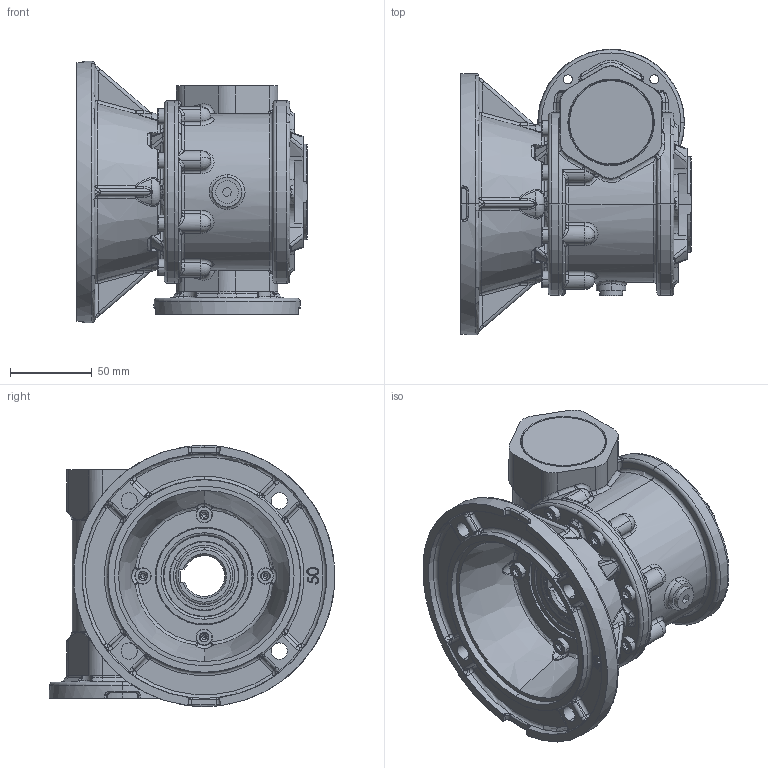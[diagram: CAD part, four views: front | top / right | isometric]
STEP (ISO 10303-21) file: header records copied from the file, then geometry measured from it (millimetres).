
FILE_DESCRIPTION (( 'STEP AP203' ), '1' );
FILE_NAME ('Sestava MRT50A-FF.STEP', '2005-08-15T10:30:01', ( '' ), ( '' ), 'SwSTEP 2.0', 'SolidWorks 2004146', '' );
FILE_SCHEMA (( 'CONFIG_CONTROL_DESIGN' ));
Products named in the file (1): Sestava MRT50A-FF
Bounding box: 141 x 175 x 160 mm (x, y, z)
Volume: 859124 mm3; surface area: 340989.3 mm2
Topology: 35 solids, 37 shells, 3542 faces, 8698 edges, 4891 vertices
Faces by surface type: torus 807, cylinder 790, bspline 655, plane 582, cone 554, sphere 154
Entity records: 376210 total; most frequent: CARTESIAN_POINT 298928, ORIENTED_EDGE 16372, DIRECTION 16171, EDGE_CURVE 8186, AXIS2_PLACEMENT_3D 7205, VERTEX_POINT 4747, CIRCLE 4317, EDGE_LOOP 3741
